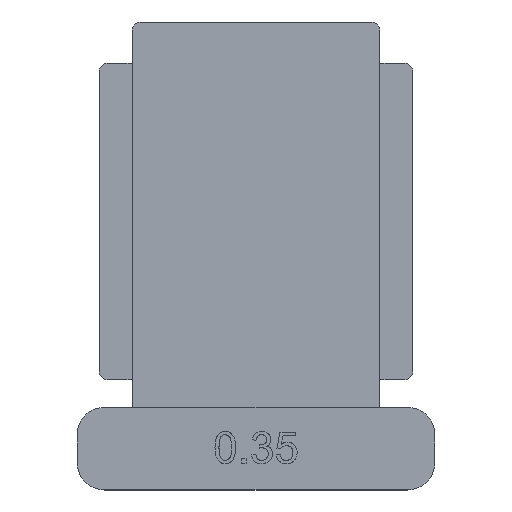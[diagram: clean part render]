
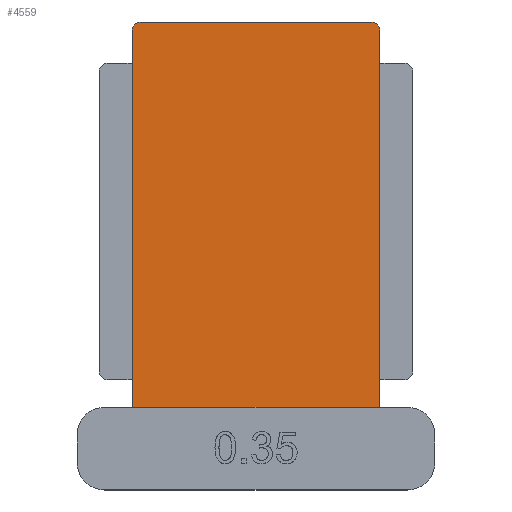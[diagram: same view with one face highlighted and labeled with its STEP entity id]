
A CAD part, top view. The second image highlights one B-rep face of the part: STEP entity #4559.
In plain terms, the highlighted planar face has unit normal (0, 0, 1).
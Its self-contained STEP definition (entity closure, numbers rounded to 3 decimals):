
#209 = PLANE('',#210);
#210 = AXIS2_PLACEMENT_3D('',#211,#212,#213);
#211 = CARTESIAN_POINT('',(13.,-13.5,0.));
#212 = DIRECTION('',(0.,-1.,0.));
#213 = DIRECTION('',(-1.,0.,0.));
#237 = PLANE('',#238);
#238 = AXIS2_PLACEMENT_3D('',#239,#240,#241);
#239 = CARTESIAN_POINT('',(9.,-14.5,0.));
#240 = DIRECTION('',(-1.,0.,0.));
#241 = DIRECTION('',(0.,1.,0.));
#431 = CYLINDRICAL_SURFACE('',#432,0.6);
#432 = AXIS2_PLACEMENT_3D('',#433,#434,#435);
#433 = CARTESIAN_POINT('',(8.4,13.9,0.));
#434 = DIRECTION('',(0.,0.,1.));
#435 = DIRECTION('',(1.,0.,-0.));
#459 = PLANE('',#460);
#460 = AXIS2_PLACEMENT_3D('',#461,#462,#463);
#461 = CARTESIAN_POINT('',(9.,14.5,0.));
#462 = DIRECTION('',(0.,-1.,0.));
#463 = DIRECTION('',(-1.,0.,0.));
#488 = CYLINDRICAL_SURFACE('',#489,0.6);
#489 = AXIS2_PLACEMENT_3D('',#490,#491,#492);
#490 = CARTESIAN_POINT('',(-8.4,13.9,0.));
#491 = DIRECTION('',(0.,0.,1.));
#492 = DIRECTION('',(-0.,1.,0.));
#516 = PLANE('',#517);
#517 = AXIS2_PLACEMENT_3D('',#518,#519,#520);
#518 = CARTESIAN_POINT('',(-9.,14.5,0.));
#519 = DIRECTION('',(1.,0.,-0.));
#520 = DIRECTION('',(0.,-1.,0.));
#1006 = VERTEX_POINT('',#1007);
#1007 = CARTESIAN_POINT('',(-9.,-13.5,3.36));
#1026 = EDGE_CURVE('',#1006,#1027,#1029,.T.);
#1027 = VERTEX_POINT('',#1028);
#1028 = CARTESIAN_POINT('',(9.,-13.5,3.36));
#1029 = SURFACE_CURVE('',#1030,(#1034,#1040),.PCURVE_S1.);
#1030 = LINE('',#1031,#1032);
#1031 = CARTESIAN_POINT('',(6.5,-13.5,3.36));
#1032 = VECTOR('',#1033,1.);
#1033 = DIRECTION('',(1.,0.,-0.));
#1034 = PCURVE('',#209,#1035);
#1035 = DEFINITIONAL_REPRESENTATION('',(#1036),#1039);
#1036 = B_SPLINE_CURVE_WITH_KNOTS('',1,(#1037,#1038),.UNSPECIFIED.,.F.,
  .F.,(2,2),(-15.5,2.5),.PIECEWISE_BEZIER_KNOTS.);
#1037 = CARTESIAN_POINT('',(22.,-3.36));
#1038 = CARTESIAN_POINT('',(4.,-3.36));
#1039 = ( GEOMETRIC_REPRESENTATION_CONTEXT(2) 
PARAMETRIC_REPRESENTATION_CONTEXT() REPRESENTATION_CONTEXT('2D SPACE',''
  ) );
#1040 = PCURVE('',#1041,#1046);
#1041 = PLANE('',#1042);
#1042 = AXIS2_PLACEMENT_3D('',#1043,#1044,#1045);
#1043 = CARTESIAN_POINT('',(0.,0.,3.36));
#1044 = DIRECTION('',(0.,0.,1.));
#1045 = DIRECTION('',(1.,0.,-0.));
#1046 = DEFINITIONAL_REPRESENTATION('',(#1047),#1050);
#1047 = B_SPLINE_CURVE_WITH_KNOTS('',1,(#1048,#1049),.UNSPECIFIED.,.F.,
  .F.,(2,2),(-15.5,2.5),.PIECEWISE_BEZIER_KNOTS.);
#1048 = CARTESIAN_POINT('',(-9.,-13.5));
#1049 = CARTESIAN_POINT('',(9.,-13.5));
#1050 = ( GEOMETRIC_REPRESENTATION_CONTEXT(2) 
PARAMETRIC_REPRESENTATION_CONTEXT() REPRESENTATION_CONTEXT('2D SPACE',''
  ) );
#1252 = VERTEX_POINT('',#1253);
#1253 = CARTESIAN_POINT('',(-9.,13.9,3.36));
#1274 = EDGE_CURVE('',#1252,#1006,#1275,.T.);
#1275 = SURFACE_CURVE('',#1276,(#1280,#1287),.PCURVE_S1.);
#1276 = LINE('',#1277,#1278);
#1277 = CARTESIAN_POINT('',(-9.,14.5,3.36));
#1278 = VECTOR('',#1279,1.);
#1279 = DIRECTION('',(0.,-1.,0.));
#1280 = PCURVE('',#516,#1281);
#1281 = DEFINITIONAL_REPRESENTATION('',(#1282),#1286);
#1282 = LINE('',#1283,#1284);
#1283 = CARTESIAN_POINT('',(0.,-3.36));
#1284 = VECTOR('',#1285,1.);
#1285 = DIRECTION('',(1.,0.));
#1286 = ( GEOMETRIC_REPRESENTATION_CONTEXT(2) 
PARAMETRIC_REPRESENTATION_CONTEXT() REPRESENTATION_CONTEXT('2D SPACE',''
  ) );
#1287 = PCURVE('',#1041,#1288);
#1288 = DEFINITIONAL_REPRESENTATION('',(#1289),#1293);
#1289 = LINE('',#1290,#1291);
#1290 = CARTESIAN_POINT('',(-9.,14.5));
#1291 = VECTOR('',#1292,1.);
#1292 = DIRECTION('',(0.,-1.));
#1293 = ( GEOMETRIC_REPRESENTATION_CONTEXT(2) 
PARAMETRIC_REPRESENTATION_CONTEXT() REPRESENTATION_CONTEXT('2D SPACE',''
  ) );
#1368 = EDGE_CURVE('',#1369,#1252,#1371,.T.);
#1369 = VERTEX_POINT('',#1370);
#1370 = CARTESIAN_POINT('',(-8.4,14.5,3.36));
#1371 = SURFACE_CURVE('',#1372,(#1377,#1384),.PCURVE_S1.);
#1372 = CIRCLE('',#1373,0.6);
#1373 = AXIS2_PLACEMENT_3D('',#1374,#1375,#1376);
#1374 = CARTESIAN_POINT('',(-8.4,13.9,3.36));
#1375 = DIRECTION('',(0.,0.,1.));
#1376 = DIRECTION('',(0.,-1.,0.));
#1377 = PCURVE('',#488,#1378);
#1378 = DEFINITIONAL_REPRESENTATION('',(#1379),#1383);
#1379 = LINE('',#1380,#1381);
#1380 = CARTESIAN_POINT('',(-3.142,3.36));
#1381 = VECTOR('',#1382,1.);
#1382 = DIRECTION('',(1.,0.));
#1383 = ( GEOMETRIC_REPRESENTATION_CONTEXT(2) 
PARAMETRIC_REPRESENTATION_CONTEXT() REPRESENTATION_CONTEXT('2D SPACE',''
  ) );
#1384 = PCURVE('',#1041,#1385);
#1385 = DEFINITIONAL_REPRESENTATION('',(#1386),#1390);
#1386 = CIRCLE('',#1387,0.6);
#1387 = AXIS2_PLACEMENT_2D('',#1388,#1389);
#1388 = CARTESIAN_POINT('',(-8.4,13.9));
#1389 = DIRECTION('',(0.,-1.));
#1390 = ( GEOMETRIC_REPRESENTATION_CONTEXT(2) 
PARAMETRIC_REPRESENTATION_CONTEXT() REPRESENTATION_CONTEXT('2D SPACE',''
  ) );
#1418 = VERTEX_POINT('',#1419);
#1419 = CARTESIAN_POINT('',(8.4,14.5,3.36));
#1440 = EDGE_CURVE('',#1418,#1369,#1441,.T.);
#1441 = SURFACE_CURVE('',#1442,(#1446,#1453),.PCURVE_S1.);
#1442 = LINE('',#1443,#1444);
#1443 = CARTESIAN_POINT('',(9.,14.5,3.36));
#1444 = VECTOR('',#1445,1.);
#1445 = DIRECTION('',(-1.,0.,0.));
#1446 = PCURVE('',#459,#1447);
#1447 = DEFINITIONAL_REPRESENTATION('',(#1448),#1452);
#1448 = LINE('',#1449,#1450);
#1449 = CARTESIAN_POINT('',(0.,-3.36));
#1450 = VECTOR('',#1451,1.);
#1451 = DIRECTION('',(1.,0.));
#1452 = ( GEOMETRIC_REPRESENTATION_CONTEXT(2) 
PARAMETRIC_REPRESENTATION_CONTEXT() REPRESENTATION_CONTEXT('2D SPACE',''
  ) );
#1453 = PCURVE('',#1041,#1454);
#1454 = DEFINITIONAL_REPRESENTATION('',(#1455),#1459);
#1455 = LINE('',#1456,#1457);
#1456 = CARTESIAN_POINT('',(9.,14.5));
#1457 = VECTOR('',#1458,1.);
#1458 = DIRECTION('',(-1.,0.));
#1459 = ( GEOMETRIC_REPRESENTATION_CONTEXT(2) 
PARAMETRIC_REPRESENTATION_CONTEXT() REPRESENTATION_CONTEXT('2D SPACE',''
  ) );
#1467 = EDGE_CURVE('',#1468,#1418,#1470,.T.);
#1468 = VERTEX_POINT('',#1469);
#1469 = CARTESIAN_POINT('',(9.,13.9,3.36));
#1470 = SURFACE_CURVE('',#1471,(#1476,#1483),.PCURVE_S1.);
#1471 = CIRCLE('',#1472,0.6);
#1472 = AXIS2_PLACEMENT_3D('',#1473,#1474,#1475);
#1473 = CARTESIAN_POINT('',(8.4,13.9,3.36));
#1474 = DIRECTION('',(0.,0.,1.));
#1475 = DIRECTION('',(0.,-1.,0.));
#1476 = PCURVE('',#431,#1477);
#1477 = DEFINITIONAL_REPRESENTATION('',(#1478),#1482);
#1478 = LINE('',#1479,#1480);
#1479 = CARTESIAN_POINT('',(-1.571,3.36));
#1480 = VECTOR('',#1481,1.);
#1481 = DIRECTION('',(1.,0.));
#1482 = ( GEOMETRIC_REPRESENTATION_CONTEXT(2) 
PARAMETRIC_REPRESENTATION_CONTEXT() REPRESENTATION_CONTEXT('2D SPACE',''
  ) );
#1483 = PCURVE('',#1041,#1484);
#1484 = DEFINITIONAL_REPRESENTATION('',(#1485),#1489);
#1485 = CIRCLE('',#1486,0.6);
#1486 = AXIS2_PLACEMENT_2D('',#1487,#1488);
#1487 = CARTESIAN_POINT('',(8.4,13.9));
#1488 = DIRECTION('',(0.,-1.));
#1489 = ( GEOMETRIC_REPRESENTATION_CONTEXT(2) 
PARAMETRIC_REPRESENTATION_CONTEXT() REPRESENTATION_CONTEXT('2D SPACE',''
  ) );
#1517 = EDGE_CURVE('',#1027,#1468,#1518,.T.);
#1518 = SURFACE_CURVE('',#1519,(#1523,#1530),.PCURVE_S1.);
#1519 = LINE('',#1520,#1521);
#1520 = CARTESIAN_POINT('',(9.,-14.5,3.36));
#1521 = VECTOR('',#1522,1.);
#1522 = DIRECTION('',(0.,1.,0.));
#1523 = PCURVE('',#237,#1524);
#1524 = DEFINITIONAL_REPRESENTATION('',(#1525),#1529);
#1525 = LINE('',#1526,#1527);
#1526 = CARTESIAN_POINT('',(0.,-3.36));
#1527 = VECTOR('',#1528,1.);
#1528 = DIRECTION('',(1.,0.));
#1529 = ( GEOMETRIC_REPRESENTATION_CONTEXT(2) 
PARAMETRIC_REPRESENTATION_CONTEXT() REPRESENTATION_CONTEXT('2D SPACE',''
  ) );
#1530 = PCURVE('',#1041,#1531);
#1531 = DEFINITIONAL_REPRESENTATION('',(#1532),#1536);
#1532 = LINE('',#1533,#1534);
#1533 = CARTESIAN_POINT('',(9.,-14.5));
#1534 = VECTOR('',#1535,1.);
#1535 = DIRECTION('',(0.,1.));
#1536 = ( GEOMETRIC_REPRESENTATION_CONTEXT(2) 
PARAMETRIC_REPRESENTATION_CONTEXT() REPRESENTATION_CONTEXT('2D SPACE',''
  ) );
#4559 = ADVANCED_FACE('',(#4560),#1041,.T.);
#4560 = FACE_BOUND('',#4561,.T.);
#4561 = EDGE_LOOP('',(#4562,#4563,#4564,#4565,#4566,#4567));
#4562 = ORIENTED_EDGE('',*,*,#1274,.T.);
#4563 = ORIENTED_EDGE('',*,*,#1026,.T.);
#4564 = ORIENTED_EDGE('',*,*,#1517,.T.);
#4565 = ORIENTED_EDGE('',*,*,#1467,.T.);
#4566 = ORIENTED_EDGE('',*,*,#1440,.T.);
#4567 = ORIENTED_EDGE('',*,*,#1368,.T.);
